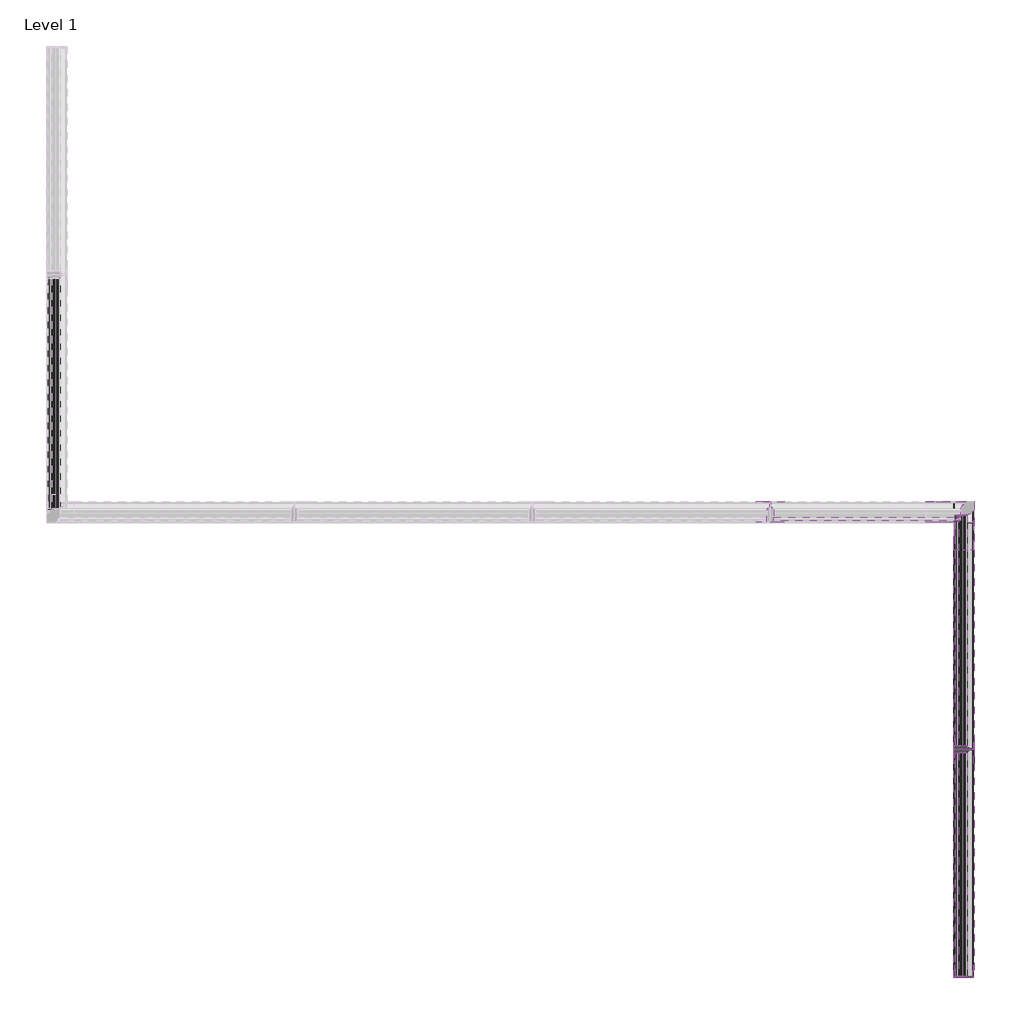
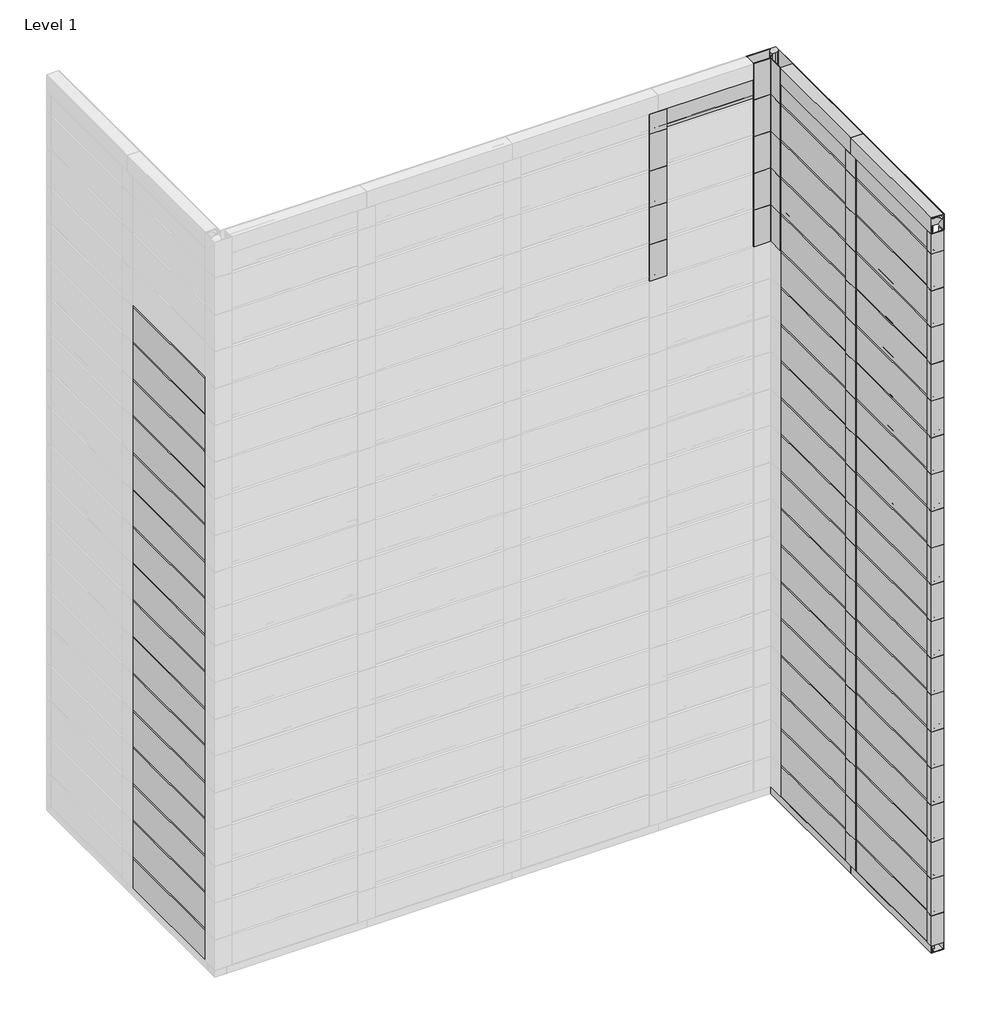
# One storey, part 3 of 6: 74 members, 57 plates.
"""IFC4 building model written with IfcOpenShell, lengths in millimetres."""

from ifc_helpers import new_model, si_unit, origin, place, context, project, spatial, transform, mapped, element, save
from components import rectangular_mullion_fastplank_2_piece_j_trim_top_531f61c0, rectangular_mullion_fastplank_2_piece_j_trim_top_b86e618e, rectangular_mullion_fastplank_2_piece_vertical_trim_b75c35a9, rectangular_mullion_fastplank_2_piece_vertical_trim_79bc82f4, rectangular_mullion_fastplank_2_piece_vertical_trim_40761718, rectangular_mullion_fastplank_general_j_vertical_left_b64c980b, rectangular_mullion_fastplank_general_j_vertical_left_273b95fd, rectangular_mullion_fastplank_general_j_vertical_left_96186454, rectangular_mullion_fastplank_inner_corner_trim_left_b16e904a, rectangular_mullion_fastplank_inner_corner_trim_left_50cadcd8, rectangular_mullion_fastplank_inner_corner_trim_left_bd85acba, rectangular_mullion_fastplank_perforated_starter_j_trim_21be3d7d, rectangular_mullion_fastplank_perforated_starter_j_trim_60d219b5, plate_624bdc6f, plate_11fa783c, plate_9753ce40, plate_9c8115fe, plate_c607dbfb, plate_67973d0f

model = new_model("IFC4")

# Units and contexts
model_context = context("Model", 3, world=origin())
ifc_project = project(units=[si_unit("LENGTHUNIT", "METRE", prefix="MILLI")], contexts=[model_context])

# Site, building, storey
site = spatial("IfcSite", under=ifc_project)
building = spatial("IfcBuilding", under=site)
storey = spatial("IfcBuildingStorey", under=building, Name="Level 1", Elevation=0.0)

# Members
placement = place(None, origin())
rectangular_mullion_fastplank_2_piece_j_trim_top_shape = rectangular_mullion_fastplank_2_piece_j_trim_top_531f61c0(model_context)
element("IfcMember", 1, ObjectType="Rectangular Mullion : FastPlank_2-Piece-J-Trim-Top", at=placement, inside=storey, context=model_context, shape_type="MappedRepresentation", body=[
    mapped(rectangular_mullion_fastplank_2_piece_j_trim_top_shape, transform((-545.8304619, 1194.7788688, 2032.0), x_axis=(0.0, 0.0, 1.0), y_axis=(-1.0, 0.0, 0.0), z_axis=(0.0, -1.0, 0.0))),
])
rectangular_mullion_fastplank_2_piece_j_trim_top_2_shape = rectangular_mullion_fastplank_2_piece_j_trim_top_b86e618e(model_context)
element("IfcMember", 2, ObjectType="Rectangular Mullion : FastPlank_2-Piece-J-Trim-Top", at=placement, inside=storey, context=model_context, shape_type="MappedRepresentation", body=[
    mapped(rectangular_mullion_fastplank_2_piece_j_trim_top_2_shape, transform((-545.8304619, 1559.8945344, 2032.0), x_axis=(0.0, 0.0, 1.0), y_axis=(-1.0, 0.0, 0.0), z_axis=(0.0, -1.0, 0.0))),
])
rectangular_mullion_fastplank_2_piece_vertical_trim_shape = rectangular_mullion_fastplank_2_piece_vertical_trim_b75c35a9(model_context)
element("IfcMember", 3, ObjectType="Rectangular Mullion : FastPlank_2-Piece-Vertical-Trim", at=placement, inside=storey, context=model_context, shape_type="MappedRepresentation", body=[
    mapped(rectangular_mullion_fastplank_2_piece_vertical_trim_shape, transform((-861.085698, 1944.9134647, 1525.3000189), x_axis=(1.0, 0.0, 0.0), y_axis=(0.0, -1.0, 0.0), z_axis=(0.0, 0.0, -1.0))),
])
element("IfcMember", 4, ObjectType="Rectangular Mullion : FastPlank_2-Piece-Vertical-Trim", at=placement, inside=storey, context=model_context, shape_type="MappedRepresentation", body=[
    mapped(rectangular_mullion_fastplank_2_piece_vertical_trim_shape, transform((-861.085698, 1944.9134647, 1626.9000189), x_axis=(1.0, 0.0, 0.0), y_axis=(0.0, -1.0, 0.0), z_axis=(0.0, 0.0, -1.0))),
])
element("IfcMember", 5, ObjectType="Rectangular Mullion : FastPlank_2-Piece-Vertical-Trim", at=placement, inside=storey, context=model_context, shape_type="MappedRepresentation", body=[
    mapped(rectangular_mullion_fastplank_2_piece_vertical_trim_shape, transform((-861.085698, 1944.9134647, 1728.5000189), x_axis=(1.0, 0.0, 0.0), y_axis=(0.0, -1.0, 0.0), z_axis=(0.0, 0.0, -1.0))),
])
element("IfcMember", 6, ObjectType="Rectangular Mullion : FastPlank_2-Piece-Vertical-Trim", at=placement, inside=storey, context=model_context, shape_type="MappedRepresentation", body=[
    mapped(rectangular_mullion_fastplank_2_piece_vertical_trim_shape, transform((-861.085698, 1944.9134647, 1830.1000189), x_axis=(1.0, 0.0, 0.0), y_axis=(0.0, -1.0, 0.0), z_axis=(0.0, 0.0, -1.0))),
])
element("IfcMember", 7, ObjectType="Rectangular Mullion : FastPlank_2-Piece-Vertical-Trim", at=placement, inside=storey, context=model_context, shape_type="MappedRepresentation", body=[
    mapped(rectangular_mullion_fastplank_2_piece_vertical_trim_shape, transform((-545.8304619, 1559.8945344, 102.9000189), x_axis=(0.0, -1.0, 0.0), y_axis=(-1.0, 0.0, 0.0), z_axis=(0.0, 0.0, -1.0))),
])
element("IfcMember", 8, ObjectType="Rectangular Mullion : FastPlank_2-Piece-Vertical-Trim", at=placement, inside=storey, context=model_context, shape_type="MappedRepresentation", body=[
    mapped(rectangular_mullion_fastplank_2_piece_vertical_trim_shape, transform((-545.8304619, 1559.8945344, 204.5000189), x_axis=(0.0, -1.0, 0.0), y_axis=(-1.0, 0.0, 0.0), z_axis=(0.0, 0.0, -1.0))),
])
element("IfcMember", 9, ObjectType="Rectangular Mullion : FastPlank_2-Piece-Vertical-Trim", at=placement, inside=storey, context=model_context, shape_type="MappedRepresentation", body=[
    mapped(rectangular_mullion_fastplank_2_piece_vertical_trim_shape, transform((-545.8304619, 1559.8945344, 306.1000189), x_axis=(0.0, -1.0, 0.0), y_axis=(-1.0, 0.0, 0.0), z_axis=(0.0, 0.0, -1.0))),
])
element("IfcMember", 10, ObjectType="Rectangular Mullion : FastPlank_2-Piece-Vertical-Trim", at=placement, inside=storey, context=model_context, shape_type="MappedRepresentation", body=[
    mapped(rectangular_mullion_fastplank_2_piece_vertical_trim_shape, transform((-545.8304619, 1559.8945344, 407.7000189), x_axis=(0.0, -1.0, 0.0), y_axis=(-1.0, 0.0, 0.0), z_axis=(0.0, 0.0, -1.0))),
])
element("IfcMember", 11, ObjectType="Rectangular Mullion : FastPlank_2-Piece-Vertical-Trim", at=placement, inside=storey, context=model_context, shape_type="MappedRepresentation", body=[
    mapped(rectangular_mullion_fastplank_2_piece_vertical_trim_shape, transform((-545.8304619, 1559.8945344, 509.3000189), x_axis=(0.0, -1.0, 0.0), y_axis=(-1.0, 0.0, 0.0), z_axis=(0.0, 0.0, -1.0))),
])
element("IfcMember", 12, ObjectType="Rectangular Mullion : FastPlank_2-Piece-Vertical-Trim", at=placement, inside=storey, context=model_context, shape_type="MappedRepresentation", body=[
    mapped(rectangular_mullion_fastplank_2_piece_vertical_trim_shape, transform((-545.8304619, 1559.8945344, 610.9000189), x_axis=(0.0, -1.0, 0.0), y_axis=(-1.0, 0.0, 0.0), z_axis=(0.0, 0.0, -1.0))),
])
element("IfcMember", 13, ObjectType="Rectangular Mullion : FastPlank_2-Piece-Vertical-Trim", at=placement, inside=storey, context=model_context, shape_type="MappedRepresentation", body=[
    mapped(rectangular_mullion_fastplank_2_piece_vertical_trim_shape, transform((-545.8304619, 1559.8945344, 712.5000189), x_axis=(0.0, -1.0, 0.0), y_axis=(-1.0, 0.0, 0.0), z_axis=(0.0, 0.0, -1.0))),
])
element("IfcMember", 14, ObjectType="Rectangular Mullion : FastPlank_2-Piece-Vertical-Trim", at=placement, inside=storey, context=model_context, shape_type="MappedRepresentation", body=[
    mapped(rectangular_mullion_fastplank_2_piece_vertical_trim_shape, transform((-545.8304619, 1559.8945344, 814.1000189), x_axis=(0.0, -1.0, 0.0), y_axis=(-1.0, 0.0, 0.0), z_axis=(0.0, 0.0, -1.0))),
])
element("IfcMember", 15, ObjectType="Rectangular Mullion : FastPlank_2-Piece-Vertical-Trim", at=placement, inside=storey, context=model_context, shape_type="MappedRepresentation", body=[
    mapped(rectangular_mullion_fastplank_2_piece_vertical_trim_shape, transform((-545.8304619, 1559.8945344, 915.7000189), x_axis=(0.0, -1.0, 0.0), y_axis=(-1.0, 0.0, 0.0), z_axis=(0.0, 0.0, -1.0))),
])
element("IfcMember", 16, ObjectType="Rectangular Mullion : FastPlank_2-Piece-Vertical-Trim", at=placement, inside=storey, context=model_context, shape_type="MappedRepresentation", body=[
    mapped(rectangular_mullion_fastplank_2_piece_vertical_trim_shape, transform((-545.8304619, 1559.8945344, 1017.3000189), x_axis=(0.0, -1.0, 0.0), y_axis=(-1.0, 0.0, 0.0), z_axis=(0.0, 0.0, -1.0))),
])
element("IfcMember", 17, ObjectType="Rectangular Mullion : FastPlank_2-Piece-Vertical-Trim", at=placement, inside=storey, context=model_context, shape_type="MappedRepresentation", body=[
    mapped(rectangular_mullion_fastplank_2_piece_vertical_trim_shape, transform((-545.8304619, 1559.8945344, 1118.9000189), x_axis=(0.0, -1.0, 0.0), y_axis=(-1.0, 0.0, 0.0), z_axis=(0.0, 0.0, -1.0))),
])
element("IfcMember", 18, ObjectType="Rectangular Mullion : FastPlank_2-Piece-Vertical-Trim", at=placement, inside=storey, context=model_context, shape_type="MappedRepresentation", body=[
    mapped(rectangular_mullion_fastplank_2_piece_vertical_trim_shape, transform((-545.8304619, 1559.8945344, 1220.5000189), x_axis=(0.0, -1.0, 0.0), y_axis=(-1.0, 0.0, 0.0), z_axis=(0.0, 0.0, -1.0))),
])
element("IfcMember", 19, ObjectType="Rectangular Mullion : FastPlank_2-Piece-Vertical-Trim", at=placement, inside=storey, context=model_context, shape_type="MappedRepresentation", body=[
    mapped(rectangular_mullion_fastplank_2_piece_vertical_trim_shape, transform((-545.8304619, 1559.8945344, 1322.1000189), x_axis=(0.0, -1.0, 0.0), y_axis=(-1.0, 0.0, 0.0), z_axis=(0.0, 0.0, -1.0))),
])
element("IfcMember", 20, ObjectType="Rectangular Mullion : FastPlank_2-Piece-Vertical-Trim", at=placement, inside=storey, context=model_context, shape_type="MappedRepresentation", body=[
    mapped(rectangular_mullion_fastplank_2_piece_vertical_trim_shape, transform((-545.8304619, 1559.8945344, 1423.7000189), x_axis=(0.0, -1.0, 0.0), y_axis=(-1.0, 0.0, 0.0), z_axis=(0.0, 0.0, -1.0))),
])
element("IfcMember", 21, ObjectType="Rectangular Mullion : FastPlank_2-Piece-Vertical-Trim", at=placement, inside=storey, context=model_context, shape_type="MappedRepresentation", body=[
    mapped(rectangular_mullion_fastplank_2_piece_vertical_trim_shape, transform((-545.8304619, 1559.8945344, 1525.3000189), x_axis=(0.0, -1.0, 0.0), y_axis=(-1.0, 0.0, 0.0), z_axis=(0.0, 0.0, -1.0))),
])
element("IfcMember", 22, ObjectType="Rectangular Mullion : FastPlank_2-Piece-Vertical-Trim", at=placement, inside=storey, context=model_context, shape_type="MappedRepresentation", body=[
    mapped(rectangular_mullion_fastplank_2_piece_vertical_trim_shape, transform((-545.8304619, 1559.8945344, 1626.9000189), x_axis=(0.0, -1.0, 0.0), y_axis=(-1.0, 0.0, 0.0), z_axis=(0.0, 0.0, -1.0))),
])
element("IfcMember", 23, ObjectType="Rectangular Mullion : FastPlank_2-Piece-Vertical-Trim", at=placement, inside=storey, context=model_context, shape_type="MappedRepresentation", body=[
    mapped(rectangular_mullion_fastplank_2_piece_vertical_trim_shape, transform((-545.8304619, 1559.8945344, 1728.5000189), x_axis=(0.0, -1.0, 0.0), y_axis=(-1.0, 0.0, 0.0), z_axis=(0.0, 0.0, -1.0))),
])
element("IfcMember", 24, ObjectType="Rectangular Mullion : FastPlank_2-Piece-Vertical-Trim", at=placement, inside=storey, context=model_context, shape_type="MappedRepresentation", body=[
    mapped(rectangular_mullion_fastplank_2_piece_vertical_trim_shape, transform((-545.8304619, 1559.8945344, 1830.1000189), x_axis=(0.0, -1.0, 0.0), y_axis=(-1.0, 0.0, 0.0), z_axis=(0.0, 0.0, -1.0))),
])
rectangular_mullion_fastplank_2_piece_vertical_trim_2_shape = rectangular_mullion_fastplank_2_piece_vertical_trim_79bc82f4(model_context)
element("IfcMember", 25, ObjectType="Rectangular Mullion : FastPlank_2-Piece-Vertical-Trim", at=placement, inside=storey, context=model_context, shape_type="MappedRepresentation", body=[
    mapped(rectangular_mullion_fastplank_2_piece_vertical_trim_2_shape, transform((-861.085698, 1944.9134647, 1931.7000189), x_axis=(1.0, 0.0, 0.0), y_axis=(0.0, -1.0, 0.0), z_axis=(0.0, 0.0, -1.0))),
])
element("IfcMember", 26, ObjectType="Rectangular Mullion : FastPlank_2-Piece-Vertical-Trim", at=placement, inside=storey, context=model_context, shape_type="MappedRepresentation", body=[
    mapped(rectangular_mullion_fastplank_2_piece_vertical_trim_2_shape, transform((-545.8304619, 1559.8945344, 1931.7000189), x_axis=(0.0, -1.0, 0.0), y_axis=(-1.0, 0.0, 0.0), z_axis=(0.0, 0.0, -1.0))),
])
rectangular_mullion_fastplank_2_piece_vertical_trim_3_shape = rectangular_mullion_fastplank_2_piece_vertical_trim_40761718(model_context)
element("IfcMember", 27, ObjectType="Rectangular Mullion : FastPlank_2-Piece-Vertical-Trim", at=placement, inside=storey, context=model_context, shape_type="MappedRepresentation", body=[
    mapped(rectangular_mullion_fastplank_2_piece_vertical_trim_3_shape, transform((-545.8304619, 1559.8945344, 19.05), x_axis=(0.0, -1.0, 0.0), y_axis=(-1.0, 0.0, 0.0), z_axis=(0.0, 0.0, -1.0))),
])
rectangular_mullion_fastplank_general_j_vertical_left_shape = rectangular_mullion_fastplank_general_j_vertical_left_b64c980b(model_context)
element("IfcMember", 28, ObjectType="Rectangular Mullion : FastPlank_General-J-Vertical-Left", at=placement, inside=storey, context=model_context, shape_type="MappedRepresentation", body=[
    mapped(rectangular_mullion_fastplank_general_j_vertical_left_shape, transform((-545.8304619, 1194.7788688, 102.9000189), x_axis=(0.0, -1.0, 0.0), y_axis=(-1.0, 0.0, 0.0), z_axis=(0.0, 0.0, -1.0))),
])
element("IfcMember", 29, ObjectType="Rectangular Mullion : FastPlank_General-J-Vertical-Left", at=placement, inside=storey, context=model_context, shape_type="MappedRepresentation", body=[
    mapped(rectangular_mullion_fastplank_general_j_vertical_left_shape, transform((-545.8304619, 1194.7788688, 204.5000189), x_axis=(0.0, -1.0, 0.0), y_axis=(-1.0, 0.0, 0.0), z_axis=(0.0, 0.0, -1.0))),
])
element("IfcMember", 30, ObjectType="Rectangular Mullion : FastPlank_General-J-Vertical-Left", at=placement, inside=storey, context=model_context, shape_type="MappedRepresentation", body=[
    mapped(rectangular_mullion_fastplank_general_j_vertical_left_shape, transform((-545.8304619, 1194.7788688, 306.1000189), x_axis=(0.0, -1.0, 0.0), y_axis=(-1.0, 0.0, 0.0), z_axis=(0.0, 0.0, -1.0))),
])
element("IfcMember", 31, ObjectType="Rectangular Mullion : FastPlank_General-J-Vertical-Left", at=placement, inside=storey, context=model_context, shape_type="MappedRepresentation", body=[
    mapped(rectangular_mullion_fastplank_general_j_vertical_left_shape, transform((-545.8304619, 1194.7788688, 407.7000189), x_axis=(0.0, -1.0, 0.0), y_axis=(-1.0, 0.0, 0.0), z_axis=(0.0, 0.0, -1.0))),
])
element("IfcMember", 32, ObjectType="Rectangular Mullion : FastPlank_General-J-Vertical-Left", at=placement, inside=storey, context=model_context, shape_type="MappedRepresentation", body=[
    mapped(rectangular_mullion_fastplank_general_j_vertical_left_shape, transform((-545.8304619, 1194.7788688, 509.3000189), x_axis=(0.0, -1.0, 0.0), y_axis=(-1.0, 0.0, 0.0), z_axis=(0.0, 0.0, -1.0))),
])
element("IfcMember", 33, ObjectType="Rectangular Mullion : FastPlank_General-J-Vertical-Left", at=placement, inside=storey, context=model_context, shape_type="MappedRepresentation", body=[
    mapped(rectangular_mullion_fastplank_general_j_vertical_left_shape, transform((-545.8304619, 1194.7788688, 610.9000189), x_axis=(0.0, -1.0, 0.0), y_axis=(-1.0, 0.0, 0.0), z_axis=(0.0, 0.0, -1.0))),
])
element("IfcMember", 34, ObjectType="Rectangular Mullion : FastPlank_General-J-Vertical-Left", at=placement, inside=storey, context=model_context, shape_type="MappedRepresentation", body=[
    mapped(rectangular_mullion_fastplank_general_j_vertical_left_shape, transform((-545.8304619, 1194.7788688, 712.5000189), x_axis=(0.0, -1.0, 0.0), y_axis=(-1.0, 0.0, 0.0), z_axis=(0.0, 0.0, -1.0))),
])
element("IfcMember", 35, ObjectType="Rectangular Mullion : FastPlank_General-J-Vertical-Left", at=placement, inside=storey, context=model_context, shape_type="MappedRepresentation", body=[
    mapped(rectangular_mullion_fastplank_general_j_vertical_left_shape, transform((-545.8304619, 1194.7788688, 814.1000189), x_axis=(0.0, -1.0, 0.0), y_axis=(-1.0, 0.0, 0.0), z_axis=(0.0, 0.0, -1.0))),
])
element("IfcMember", 36, ObjectType="Rectangular Mullion : FastPlank_General-J-Vertical-Left", at=placement, inside=storey, context=model_context, shape_type="MappedRepresentation", body=[
    mapped(rectangular_mullion_fastplank_general_j_vertical_left_shape, transform((-545.8304619, 1194.7788688, 915.7000189), x_axis=(0.0, -1.0, 0.0), y_axis=(-1.0, 0.0, 0.0), z_axis=(0.0, 0.0, -1.0))),
])
element("IfcMember", 37, ObjectType="Rectangular Mullion : FastPlank_General-J-Vertical-Left", at=placement, inside=storey, context=model_context, shape_type="MappedRepresentation", body=[
    mapped(rectangular_mullion_fastplank_general_j_vertical_left_shape, transform((-545.8304619, 1194.7788688, 1017.3000189), x_axis=(0.0, -1.0, 0.0), y_axis=(-1.0, 0.0, 0.0), z_axis=(0.0, 0.0, -1.0))),
])
element("IfcMember", 38, ObjectType="Rectangular Mullion : FastPlank_General-J-Vertical-Left", at=placement, inside=storey, context=model_context, shape_type="MappedRepresentation", body=[
    mapped(rectangular_mullion_fastplank_general_j_vertical_left_shape, transform((-545.8304619, 1194.7788688, 1118.9000189), x_axis=(0.0, -1.0, 0.0), y_axis=(-1.0, 0.0, 0.0), z_axis=(0.0, 0.0, -1.0))),
])
element("IfcMember", 39, ObjectType="Rectangular Mullion : FastPlank_General-J-Vertical-Left", at=placement, inside=storey, context=model_context, shape_type="MappedRepresentation", body=[
    mapped(rectangular_mullion_fastplank_general_j_vertical_left_shape, transform((-545.8304619, 1194.7788688, 1220.5000189), x_axis=(0.0, -1.0, 0.0), y_axis=(-1.0, 0.0, 0.0), z_axis=(0.0, 0.0, -1.0))),
])
element("IfcMember", 40, ObjectType="Rectangular Mullion : FastPlank_General-J-Vertical-Left", at=placement, inside=storey, context=model_context, shape_type="MappedRepresentation", body=[
    mapped(rectangular_mullion_fastplank_general_j_vertical_left_shape, transform((-545.8304619, 1194.7788688, 1322.1000189), x_axis=(0.0, -1.0, 0.0), y_axis=(-1.0, 0.0, 0.0), z_axis=(0.0, 0.0, -1.0))),
])
element("IfcMember", 41, ObjectType="Rectangular Mullion : FastPlank_General-J-Vertical-Left", at=placement, inside=storey, context=model_context, shape_type="MappedRepresentation", body=[
    mapped(rectangular_mullion_fastplank_general_j_vertical_left_shape, transform((-545.8304619, 1194.7788688, 1423.7000189), x_axis=(0.0, -1.0, 0.0), y_axis=(-1.0, 0.0, 0.0), z_axis=(0.0, 0.0, -1.0))),
])
element("IfcMember", 42, ObjectType="Rectangular Mullion : FastPlank_General-J-Vertical-Left", at=placement, inside=storey, context=model_context, shape_type="MappedRepresentation", body=[
    mapped(rectangular_mullion_fastplank_general_j_vertical_left_shape, transform((-545.8304619, 1194.7788688, 1525.3000189), x_axis=(0.0, -1.0, 0.0), y_axis=(-1.0, 0.0, 0.0), z_axis=(0.0, 0.0, -1.0))),
])
element("IfcMember", 43, ObjectType="Rectangular Mullion : FastPlank_General-J-Vertical-Left", at=placement, inside=storey, context=model_context, shape_type="MappedRepresentation", body=[
    mapped(rectangular_mullion_fastplank_general_j_vertical_left_shape, transform((-545.8304619, 1194.7788688, 1626.9000189), x_axis=(0.0, -1.0, 0.0), y_axis=(-1.0, 0.0, 0.0), z_axis=(0.0, 0.0, -1.0))),
])
element("IfcMember", 44, ObjectType="Rectangular Mullion : FastPlank_General-J-Vertical-Left", at=placement, inside=storey, context=model_context, shape_type="MappedRepresentation", body=[
    mapped(rectangular_mullion_fastplank_general_j_vertical_left_shape, transform((-545.8304619, 1194.7788688, 1728.5000189), x_axis=(0.0, -1.0, 0.0), y_axis=(-1.0, 0.0, 0.0), z_axis=(0.0, 0.0, -1.0))),
])
element("IfcMember", 45, ObjectType="Rectangular Mullion : FastPlank_General-J-Vertical-Left", at=placement, inside=storey, context=model_context, shape_type="MappedRepresentation", body=[
    mapped(rectangular_mullion_fastplank_general_j_vertical_left_shape, transform((-545.8304619, 1194.7788688, 1830.1000189), x_axis=(0.0, -1.0, 0.0), y_axis=(-1.0, 0.0, 0.0), z_axis=(0.0, 0.0, -1.0))),
])
rectangular_mullion_fastplank_general_j_vertical_left_2_shape = rectangular_mullion_fastplank_general_j_vertical_left_273b95fd(model_context)
element("IfcMember", 46, ObjectType="Rectangular Mullion : FastPlank_General-J-Vertical-Left", at=placement, inside=storey, context=model_context, shape_type="MappedRepresentation", body=[
    mapped(rectangular_mullion_fastplank_general_j_vertical_left_2_shape, transform((-545.8304619, 1194.7788688, 1931.7000189), x_axis=(0.0, -1.0, 0.0), y_axis=(-1.0, 0.0, 0.0), z_axis=(0.0, 0.0, -1.0))),
])
rectangular_mullion_fastplank_general_j_vertical_left_3_shape = rectangular_mullion_fastplank_general_j_vertical_left_96186454(model_context)
element("IfcMember", 47, ObjectType="Rectangular Mullion : FastPlank_General-J-Vertical-Left", at=placement, inside=storey, context=model_context, shape_type="MappedRepresentation", body=[
    mapped(rectangular_mullion_fastplank_general_j_vertical_left_3_shape, transform((-545.8304619, 1194.7788688, 19.05), x_axis=(0.0, -1.0, 0.0), y_axis=(-1.0, 0.0, 0.0), z_axis=(0.0, 0.0, -1.0))),
])
rectangular_mullion_fastplank_inner_corner_trim_left_shape = rectangular_mullion_fastplank_inner_corner_trim_left_b16e904a(model_context)
element("IfcMember", 48, ObjectType="Rectangular Mullion : FastPlank_Inner-Corner-Trim-Left", at=placement, inside=storey, context=model_context, shape_type="MappedRepresentation", body=[
    mapped(rectangular_mullion_fastplank_inner_corner_trim_left_shape, transform((-545.8304619, 1956.7788688, 204.5000189), x_axis=(0.0, 1.0, 0.0), y_axis=(-1.0, 0.0, 0.0), z_axis=(0.0, 0.0, 1.0))),
])
element("IfcMember", 49, ObjectType="Rectangular Mullion : FastPlank_Inner-Corner-Trim-Left", at=placement, inside=storey, context=model_context, shape_type="MappedRepresentation", body=[
    mapped(rectangular_mullion_fastplank_inner_corner_trim_left_shape, transform((-545.8304619, 1956.7788688, 306.1000189), x_axis=(0.0, 1.0, 0.0), y_axis=(-1.0, 0.0, 0.0), z_axis=(0.0, 0.0, 1.0))),
])
element("IfcMember", 50, ObjectType="Rectangular Mullion : FastPlank_Inner-Corner-Trim-Left", at=placement, inside=storey, context=model_context, shape_type="MappedRepresentation", body=[
    mapped(rectangular_mullion_fastplank_inner_corner_trim_left_shape, transform((-545.8304619, 1956.7788688, 407.7000189), x_axis=(0.0, 1.0, 0.0), y_axis=(-1.0, 0.0, 0.0), z_axis=(0.0, 0.0, 1.0))),
])
element("IfcMember", 51, ObjectType="Rectangular Mullion : FastPlank_Inner-Corner-Trim-Left", at=placement, inside=storey, context=model_context, shape_type="MappedRepresentation", body=[
    mapped(rectangular_mullion_fastplank_inner_corner_trim_left_shape, transform((-545.8304619, 1956.7788688, 509.3000189), x_axis=(0.0, 1.0, 0.0), y_axis=(-1.0, 0.0, 0.0), z_axis=(0.0, 0.0, 1.0))),
])
element("IfcMember", 52, ObjectType="Rectangular Mullion : FastPlank_Inner-Corner-Trim-Left", at=placement, inside=storey, context=model_context, shape_type="MappedRepresentation", body=[
    mapped(rectangular_mullion_fastplank_inner_corner_trim_left_shape, transform((-545.8304619, 1956.7788688, 610.9000189), x_axis=(0.0, 1.0, 0.0), y_axis=(-1.0, 0.0, 0.0), z_axis=(0.0, 0.0, 1.0))),
])
element("IfcMember", 53, ObjectType="Rectangular Mullion : FastPlank_Inner-Corner-Trim-Left", at=placement, inside=storey, context=model_context, shape_type="MappedRepresentation", body=[
    mapped(rectangular_mullion_fastplank_inner_corner_trim_left_shape, transform((-545.8304619, 1956.7788688, 712.5000189), x_axis=(0.0, 1.0, 0.0), y_axis=(-1.0, 0.0, 0.0), z_axis=(0.0, 0.0, 1.0))),
])
element("IfcMember", 54, ObjectType="Rectangular Mullion : FastPlank_Inner-Corner-Trim-Left", at=placement, inside=storey, context=model_context, shape_type="MappedRepresentation", body=[
    mapped(rectangular_mullion_fastplank_inner_corner_trim_left_shape, transform((-545.8304619, 1956.7788688, 814.1000189), x_axis=(0.0, 1.0, 0.0), y_axis=(-1.0, 0.0, 0.0), z_axis=(0.0, 0.0, 1.0))),
])
element("IfcMember", 55, ObjectType="Rectangular Mullion : FastPlank_Inner-Corner-Trim-Left", at=placement, inside=storey, context=model_context, shape_type="MappedRepresentation", body=[
    mapped(rectangular_mullion_fastplank_inner_corner_trim_left_shape, transform((-545.8304619, 1956.7788688, 915.7000189), x_axis=(0.0, 1.0, 0.0), y_axis=(-1.0, 0.0, 0.0), z_axis=(0.0, 0.0, 1.0))),
])
element("IfcMember", 56, ObjectType="Rectangular Mullion : FastPlank_Inner-Corner-Trim-Left", at=placement, inside=storey, context=model_context, shape_type="MappedRepresentation", body=[
    mapped(rectangular_mullion_fastplank_inner_corner_trim_left_shape, transform((-545.8304619, 1956.7788688, 1017.3000189), x_axis=(0.0, 1.0, 0.0), y_axis=(-1.0, 0.0, 0.0), z_axis=(0.0, 0.0, 1.0))),
])
element("IfcMember", 57, ObjectType="Rectangular Mullion : FastPlank_Inner-Corner-Trim-Left", at=placement, inside=storey, context=model_context, shape_type="MappedRepresentation", body=[
    mapped(rectangular_mullion_fastplank_inner_corner_trim_left_shape, transform((-545.8304619, 1956.7788688, 1118.9000189), x_axis=(0.0, 1.0, 0.0), y_axis=(-1.0, 0.0, 0.0), z_axis=(0.0, 0.0, 1.0))),
])
element("IfcMember", 58, ObjectType="Rectangular Mullion : FastPlank_Inner-Corner-Trim-Left", at=placement, inside=storey, context=model_context, shape_type="MappedRepresentation", body=[
    mapped(rectangular_mullion_fastplank_inner_corner_trim_left_shape, transform((-545.8304619, 1956.7788688, 1220.5000189), x_axis=(0.0, 1.0, 0.0), y_axis=(-1.0, 0.0, 0.0), z_axis=(0.0, 0.0, 1.0))),
])
element("IfcMember", 59, ObjectType="Rectangular Mullion : FastPlank_Inner-Corner-Trim-Left", at=placement, inside=storey, context=model_context, shape_type="MappedRepresentation", body=[
    mapped(rectangular_mullion_fastplank_inner_corner_trim_left_shape, transform((-545.8304619, 1956.7788688, 1322.1000189), x_axis=(0.0, 1.0, 0.0), y_axis=(-1.0, 0.0, 0.0), z_axis=(0.0, 0.0, 1.0))),
])
element("IfcMember", 60, ObjectType="Rectangular Mullion : FastPlank_Inner-Corner-Trim-Left", at=placement, inside=storey, context=model_context, shape_type="MappedRepresentation", body=[
    mapped(rectangular_mullion_fastplank_inner_corner_trim_left_shape, transform((-545.8304619, 1956.7788688, 1423.7000189), x_axis=(0.0, 1.0, 0.0), y_axis=(-1.0, 0.0, 0.0), z_axis=(0.0, 0.0, 1.0))),
])
element("IfcMember", 61, ObjectType="Rectangular Mullion : FastPlank_Inner-Corner-Trim-Left", at=placement, inside=storey, context=model_context, shape_type="MappedRepresentation", body=[
    mapped(rectangular_mullion_fastplank_inner_corner_trim_left_shape, transform((-545.8304619, 1956.7788688, 1525.3000189), x_axis=(0.0, 1.0, 0.0), y_axis=(-1.0, 0.0, 0.0), z_axis=(0.0, 0.0, 1.0))),
])
element("IfcMember", 62, ObjectType="Rectangular Mullion : FastPlank_Inner-Corner-Trim-Left", at=placement, inside=storey, context=model_context, shape_type="MappedRepresentation", body=[
    mapped(rectangular_mullion_fastplank_inner_corner_trim_left_shape, transform((-545.8304619, 1956.7788688, 1626.9000189), x_axis=(0.0, 1.0, 0.0), y_axis=(-1.0, 0.0, 0.0), z_axis=(0.0, 0.0, 1.0))),
])
element("IfcMember", 63, ObjectType="Rectangular Mullion : FastPlank_Inner-Corner-Trim-Left", at=placement, inside=storey, context=model_context, shape_type="MappedRepresentation", body=[
    mapped(rectangular_mullion_fastplank_inner_corner_trim_left_shape, transform((-545.8304619, 1956.7788688, 1728.5000189), x_axis=(0.0, 1.0, 0.0), y_axis=(-1.0, 0.0, 0.0), z_axis=(0.0, 0.0, 1.0))),
])
element("IfcMember", 64, ObjectType="Rectangular Mullion : FastPlank_Inner-Corner-Trim-Left", at=placement, inside=storey, context=model_context, shape_type="MappedRepresentation", body=[
    mapped(rectangular_mullion_fastplank_inner_corner_trim_left_shape, transform((-545.8304619, 1956.7788688, 1830.1000189), x_axis=(0.0, 1.0, 0.0), y_axis=(-1.0, 0.0, 0.0), z_axis=(0.0, 0.0, 1.0))),
])
element("IfcMember", 65, ObjectType="Rectangular Mullion : FastPlank_Inner-Corner-Trim-Left", at=placement, inside=storey, context=model_context, shape_type="MappedRepresentation", body=[
    mapped(rectangular_mullion_fastplank_inner_corner_trim_left_shape, transform((-545.8304619, 1956.7788688, 1931.7000189), x_axis=(0.0, 1.0, 0.0), y_axis=(-1.0, 0.0, 0.0), z_axis=(0.0, 0.0, 1.0))),
])
rectangular_mullion_fastplank_inner_corner_trim_left_2_shape = rectangular_mullion_fastplank_inner_corner_trim_left_50cadcd8(model_context)
element("IfcMember", 66, ObjectType="Rectangular Mullion : FastPlank_Inner-Corner-Trim-Left", at=placement, inside=storey, context=model_context, shape_type="MappedRepresentation", body=[
    mapped(rectangular_mullion_fastplank_inner_corner_trim_left_2_shape, transform((-545.8304619, 1956.7788688, 2032.0), x_axis=(0.0, 1.0, 0.0), y_axis=(-1.0, 0.0, 0.0), z_axis=(0.0, 0.0, 1.0))),
])
rectangular_mullion_fastplank_inner_corner_trim_left_3_shape = rectangular_mullion_fastplank_inner_corner_trim_left_bd85acba(model_context)
element("IfcMember", 67, ObjectType="Rectangular Mullion : FastPlank_Inner-Corner-Trim-Left", at=placement, inside=storey, context=model_context, shape_type="MappedRepresentation", body=[
    mapped(rectangular_mullion_fastplank_inner_corner_trim_left_3_shape, transform((-545.8304619, 1956.7788688, 102.9000189), x_axis=(0.0, 1.0, 0.0), y_axis=(-1.0, 0.0, 0.0), z_axis=(0.0, 0.0, 1.0))),
])
element("IfcMember", 68, ObjectType="Rectangular Mullion : FastPlank_Inner-Corner-Trim-Right", at=placement, inside=storey, context=model_context, shape_type="MappedRepresentation", body=[
    mapped(rectangular_mullion_fastplank_inner_corner_trim_left_shape, transform((-533.9650578, 1944.9134647, 1525.3000189), x_axis=(1.0, 0.0, 0.0), y_axis=(0.0, -1.0, 0.0), z_axis=(0.0, 0.0, -1.0))),
])
element("IfcMember", 69, ObjectType="Rectangular Mullion : FastPlank_Inner-Corner-Trim-Right", at=placement, inside=storey, context=model_context, shape_type="MappedRepresentation", body=[
    mapped(rectangular_mullion_fastplank_inner_corner_trim_left_shape, transform((-533.9650578, 1944.9134647, 1626.9000189), x_axis=(1.0, 0.0, 0.0), y_axis=(0.0, -1.0, 0.0), z_axis=(0.0, 0.0, -1.0))),
])
element("IfcMember", 70, ObjectType="Rectangular Mullion : FastPlank_Inner-Corner-Trim-Right", at=placement, inside=storey, context=model_context, shape_type="MappedRepresentation", body=[
    mapped(rectangular_mullion_fastplank_inner_corner_trim_left_shape, transform((-533.9650578, 1944.9134647, 1728.5000189), x_axis=(1.0, 0.0, 0.0), y_axis=(0.0, -1.0, 0.0), z_axis=(0.0, 0.0, -1.0))),
])
element("IfcMember", 71, ObjectType="Rectangular Mullion : FastPlank_Inner-Corner-Trim-Right", at=placement, inside=storey, context=model_context, shape_type="MappedRepresentation", body=[
    mapped(rectangular_mullion_fastplank_inner_corner_trim_left_shape, transform((-533.9650578, 1944.9134647, 1830.1000189), x_axis=(1.0, 0.0, 0.0), y_axis=(0.0, -1.0, 0.0), z_axis=(0.0, 0.0, -1.0))),
])
element("IfcMember", 72, ObjectType="Rectangular Mullion : FastPlank_Inner-Corner-Trim-Right", at=placement, inside=storey, context=model_context, shape_type="MappedRepresentation", body=[
    mapped(rectangular_mullion_fastplank_inner_corner_trim_left_2_shape, transform((-533.9650578, 1944.9134647, 1931.7000189), x_axis=(1.0, 0.0, 0.0), y_axis=(0.0, -1.0, 0.0), z_axis=(0.0, 0.0, -1.0))),
])
rectangular_mullion_fastplank_perforated_starter_j_trim_shape = rectangular_mullion_fastplank_perforated_starter_j_trim_21be3d7d(model_context)
element("IfcMember", 73, ObjectType="Rectangular Mullion : FastPlank_Perforated-Starter-J-Trim", at=placement, inside=storey, context=model_context, shape_type="MappedRepresentation", body=[
    mapped(rectangular_mullion_fastplank_perforated_starter_j_trim_shape, transform((-545.8304619, 1956.7788688, 0.0), x_axis=(0.0, 0.0, -1.0), y_axis=(-1.0, 0.0, 0.0), z_axis=(0.0, 1.0, 0.0))),
])
rectangular_mullion_fastplank_perforated_starter_j_trim_2_shape = rectangular_mullion_fastplank_perforated_starter_j_trim_60d219b5(model_context)
element("IfcMember", 74, ObjectType="Rectangular Mullion : FastPlank_Perforated-Starter-J-Trim", at=placement, inside=storey, context=model_context, shape_type="MappedRepresentation", body=[
    mapped(rectangular_mullion_fastplank_perforated_starter_j_trim_2_shape, transform((-545.8304619, 1559.8945344, 0.0), x_axis=(0.0, 0.0, -1.0), y_axis=(-1.0, 0.0, 0.0), z_axis=(0.0, 1.0, 0.0))),
])

# Plates
plate_shape = plate_624bdc6f(model_context)
element("IfcPlate", 75, ObjectType="FastPlank_P44V-V-Notch-4″-Plank-Horizontal : P44V-V-Notch-4″-Plank-Horizontal", at=placement, inside=storey, context=model_context, shape_type="MappedRepresentation", body=[
    mapped(plate_shape, transform((-545.8304619, 1750.3945345, 1.3000189), x_axis=(0.0, -1.0, 0.0), y_axis=(1.0, 0.0, 0.0), z_axis=(0.0, 0.0, 1.0))),
])
element("IfcPlate", 76, ObjectType="FastPlank_P44V-V-Notch-4″-Plank-Horizontal : P44V-V-Notch-4″-Plank-Horizontal", at=placement, inside=storey, context=model_context, shape_type="MappedRepresentation", body=[
    mapped(plate_shape, transform((-545.8304619, 1750.3945345, 102.9000189), x_axis=(0.0, -1.0, 0.0), y_axis=(1.0, 0.0, 0.0), z_axis=(0.0, 0.0, 1.0))),
])
element("IfcPlate", 77, ObjectType="FastPlank_P44V-V-Notch-4″-Plank-Horizontal : P44V-V-Notch-4″-Plank-Horizontal", at=placement, inside=storey, context=model_context, shape_type="MappedRepresentation", body=[
    mapped(plate_shape, transform((-545.8304619, 1750.3945345, 204.5000189), x_axis=(0.0, -1.0, 0.0), y_axis=(1.0, 0.0, 0.0), z_axis=(0.0, 0.0, 1.0))),
])
element("IfcPlate", 78, ObjectType="FastPlank_P44V-V-Notch-4″-Plank-Horizontal : P44V-V-Notch-4″-Plank-Horizontal", at=placement, inside=storey, context=model_context, shape_type="MappedRepresentation", body=[
    mapped(plate_shape, transform((-545.8304619, 1750.3945345, 306.1000189), x_axis=(0.0, -1.0, 0.0), y_axis=(1.0, 0.0, 0.0), z_axis=(0.0, 0.0, 1.0))),
])
element("IfcPlate", 79, ObjectType="FastPlank_P44V-V-Notch-4″-Plank-Horizontal : P44V-V-Notch-4″-Plank-Horizontal", at=placement, inside=storey, context=model_context, shape_type="MappedRepresentation", body=[
    mapped(plate_shape, transform((-545.8304619, 1750.3945345, 407.7000189), x_axis=(0.0, -1.0, 0.0), y_axis=(1.0, 0.0, 0.0), z_axis=(0.0, 0.0, 1.0))),
])
element("IfcPlate", 80, ObjectType="FastPlank_P44V-V-Notch-4″-Plank-Horizontal : P44V-V-Notch-4″-Plank-Horizontal", at=placement, inside=storey, context=model_context, shape_type="MappedRepresentation", body=[
    mapped(plate_shape, transform((-545.8304619, 1750.3945345, 509.3000189), x_axis=(0.0, -1.0, 0.0), y_axis=(1.0, 0.0, 0.0), z_axis=(0.0, 0.0, 1.0))),
])
element("IfcPlate", 81, ObjectType="FastPlank_P44V-V-Notch-4″-Plank-Horizontal : P44V-V-Notch-4″-Plank-Horizontal", at=placement, inside=storey, context=model_context, shape_type="MappedRepresentation", body=[
    mapped(plate_shape, transform((-545.8304619, 1750.3945345, 610.9000189), x_axis=(0.0, -1.0, 0.0), y_axis=(1.0, 0.0, 0.0), z_axis=(0.0, 0.0, 1.0))),
])
element("IfcPlate", 82, ObjectType="FastPlank_P44V-V-Notch-4″-Plank-Horizontal : P44V-V-Notch-4″-Plank-Horizontal", at=placement, inside=storey, context=model_context, shape_type="MappedRepresentation", body=[
    mapped(plate_shape, transform((-545.8304619, 1750.3945345, 712.5000189), x_axis=(0.0, -1.0, 0.0), y_axis=(1.0, 0.0, 0.0), z_axis=(0.0, 0.0, 1.0))),
])
element("IfcPlate", 83, ObjectType="FastPlank_P44V-V-Notch-4″-Plank-Horizontal : P44V-V-Notch-4″-Plank-Horizontal", at=placement, inside=storey, context=model_context, shape_type="MappedRepresentation", body=[
    mapped(plate_shape, transform((-545.8304619, 1750.3945345, 814.1000189), x_axis=(0.0, -1.0, 0.0), y_axis=(1.0, 0.0, 0.0), z_axis=(0.0, 0.0, 1.0))),
])
element("IfcPlate", 84, ObjectType="FastPlank_P44V-V-Notch-4″-Plank-Horizontal : P44V-V-Notch-4″-Plank-Horizontal", at=placement, inside=storey, context=model_context, shape_type="MappedRepresentation", body=[
    mapped(plate_shape, transform((-545.8304619, 1750.3945345, 915.7000189), x_axis=(0.0, -1.0, 0.0), y_axis=(1.0, 0.0, 0.0), z_axis=(0.0, 0.0, 1.0))),
])
element("IfcPlate", 85, ObjectType="FastPlank_P44V-V-Notch-4″-Plank-Horizontal : P44V-V-Notch-4″-Plank-Horizontal", at=placement, inside=storey, context=model_context, shape_type="MappedRepresentation", body=[
    mapped(plate_shape, transform((-545.8304619, 1750.3945345, 1017.3000189), x_axis=(0.0, -1.0, 0.0), y_axis=(1.0, 0.0, 0.0), z_axis=(0.0, 0.0, 1.0))),
])
element("IfcPlate", 86, ObjectType="FastPlank_P44V-V-Notch-4″-Plank-Horizontal : P44V-V-Notch-4″-Plank-Horizontal", at=placement, inside=storey, context=model_context, shape_type="MappedRepresentation", body=[
    mapped(plate_shape, transform((-545.8304619, 1750.3945345, 1118.9000189), x_axis=(0.0, -1.0, 0.0), y_axis=(1.0, 0.0, 0.0), z_axis=(0.0, 0.0, 1.0))),
])
element("IfcPlate", 87, ObjectType="FastPlank_P44V-V-Notch-4″-Plank-Horizontal : P44V-V-Notch-4″-Plank-Horizontal", at=placement, inside=storey, context=model_context, shape_type="MappedRepresentation", body=[
    mapped(plate_shape, transform((-545.8304619, 1750.3945345, 1220.5000189), x_axis=(0.0, -1.0, 0.0), y_axis=(1.0, 0.0, 0.0), z_axis=(0.0, 0.0, 1.0))),
])
element("IfcPlate", 88, ObjectType="FastPlank_P44V-V-Notch-4″-Plank-Horizontal : P44V-V-Notch-4″-Plank-Horizontal", at=placement, inside=storey, context=model_context, shape_type="MappedRepresentation", body=[
    mapped(plate_shape, transform((-545.8304619, 1750.3945345, 1322.1000189), x_axis=(0.0, -1.0, 0.0), y_axis=(1.0, 0.0, 0.0), z_axis=(0.0, 0.0, 1.0))),
])
element("IfcPlate", 89, ObjectType="FastPlank_P44V-V-Notch-4″-Plank-Horizontal : P44V-V-Notch-4″-Plank-Horizontal", at=placement, inside=storey, context=model_context, shape_type="MappedRepresentation", body=[
    mapped(plate_shape, transform((-545.8304619, 1750.3945345, 1423.7000189), x_axis=(0.0, -1.0, 0.0), y_axis=(1.0, 0.0, 0.0), z_axis=(0.0, 0.0, 1.0))),
])
element("IfcPlate", 90, ObjectType="FastPlank_P44V-V-Notch-4″-Plank-Horizontal : P44V-V-Notch-4″-Plank-Horizontal", at=placement, inside=storey, context=model_context, shape_type="MappedRepresentation", body=[
    mapped(plate_shape, transform((-545.8304619, 1750.3945345, 1525.3000189), x_axis=(0.0, -1.0, 0.0), y_axis=(1.0, 0.0, 0.0), z_axis=(0.0, 0.0, 1.0))),
])
element("IfcPlate", 91, ObjectType="FastPlank_P44V-V-Notch-4″-Plank-Horizontal : P44V-V-Notch-4″-Plank-Horizontal", at=placement, inside=storey, context=model_context, shape_type="MappedRepresentation", body=[
    mapped(plate_shape, transform((-545.8304619, 1750.3945345, 1626.9000189), x_axis=(0.0, -1.0, 0.0), y_axis=(1.0, 0.0, 0.0), z_axis=(0.0, 0.0, 1.0))),
])
element("IfcPlate", 92, ObjectType="FastPlank_P44V-V-Notch-4″-Plank-Horizontal : P44V-V-Notch-4″-Plank-Horizontal", at=placement, inside=storey, context=model_context, shape_type="MappedRepresentation", body=[
    mapped(plate_shape, transform((-545.8304619, 1750.3945345, 1728.5000189), x_axis=(0.0, -1.0, 0.0), y_axis=(1.0, 0.0, 0.0), z_axis=(0.0, 0.0, 1.0))),
])
element("IfcPlate", 93, ObjectType="FastPlank_P44V-V-Notch-4″-Plank-Horizontal : P44V-V-Notch-4″-Plank-Horizontal", at=placement, inside=storey, context=model_context, shape_type="MappedRepresentation", body=[
    mapped(plate_shape, transform((-545.8304619, 1750.3945345, 1830.1000189), x_axis=(0.0, -1.0, 0.0), y_axis=(1.0, 0.0, 0.0), z_axis=(0.0, 0.0, 1.0))),
])
plate_2_shape = plate_11fa783c(model_context)
element("IfcPlate", 94, ObjectType="FastPlank_P44V-V-Notch-4″-Plank-Horizontal : P44V-V-Notch-4″-Plank-Horizontal", at=placement, inside=storey, context=model_context, shape_type="MappedRepresentation", body=[
    mapped(plate_2_shape, transform((-545.8304619, 1750.3945345, 1931.7000189), x_axis=(0.0, -1.0, 0.0), y_axis=(1.0, 0.0, 0.0), z_axis=(0.0, 0.0, 1.0))),
])
plate_3_shape = plate_9753ce40(model_context)
element("IfcPlate", 95, ObjectType="FastPlank_P44V-V-Notch-4″-Plank-Horizontal : P44V-V-Notch-4″-Plank-Horizontal", at=placement, inside=storey, context=model_context, shape_type="MappedRepresentation", body=[
    mapped(plate_3_shape, transform((-705.467545, 1944.9134647, 1931.7000189), x_axis=(1.0, 0.0, 0.0), y_axis=(0.0, 1.0, 0.0), z_axis=(0.0, 0.0, 1.0))),
])
plate_4_shape = plate_9c8115fe(model_context)
element("IfcPlate", 96, ObjectType="FastPlank_P44V-V-Notch-4″-Plank-Horizontal : P44V-V-Notch-4″-Plank-Horizontal", at=placement, inside=storey, context=model_context, shape_type="MappedRepresentation", body=[
    mapped(plate_4_shape, transform((-1998.3218907, 2129.6496573, 1.3000189), x_axis=(0.0, 1.0, 0.0), y_axis=(-1.0, 0.0, 0.0), z_axis=(0.0, 0.0, 1.0))),
])
element("IfcPlate", 97, ObjectType="FastPlank_P44V-V-Notch-4″-Plank-Horizontal : P44V-V-Notch-4″-Plank-Horizontal", at=placement, inside=storey, context=model_context, shape_type="MappedRepresentation", body=[
    mapped(plate_4_shape, transform((-1998.3218907, 2129.6496573, 102.9000189), x_axis=(0.0, 1.0, 0.0), y_axis=(-1.0, 0.0, 0.0), z_axis=(0.0, 0.0, 1.0))),
])
element("IfcPlate", 98, ObjectType="FastPlank_P44V-V-Notch-4″-Plank-Horizontal : P44V-V-Notch-4″-Plank-Horizontal", at=placement, inside=storey, context=model_context, shape_type="MappedRepresentation", body=[
    mapped(plate_4_shape, transform((-1998.3218907, 2129.6496573, 204.5000189), x_axis=(0.0, 1.0, 0.0), y_axis=(-1.0, 0.0, 0.0), z_axis=(0.0, 0.0, 1.0))),
])
element("IfcPlate", 99, ObjectType="FastPlank_P44V-V-Notch-4″-Plank-Horizontal : P44V-V-Notch-4″-Plank-Horizontal", at=placement, inside=storey, context=model_context, shape_type="MappedRepresentation", body=[
    mapped(plate_4_shape, transform((-1998.3218907, 2129.6496573, 306.1000189), x_axis=(0.0, 1.0, 0.0), y_axis=(-1.0, 0.0, 0.0), z_axis=(0.0, 0.0, 1.0))),
])
element("IfcPlate", 100, ObjectType="FastPlank_P44V-V-Notch-4″-Plank-Horizontal : P44V-V-Notch-4″-Plank-Horizontal", at=placement, inside=storey, context=model_context, shape_type="MappedRepresentation", body=[
    mapped(plate_4_shape, transform((-1998.3218907, 2129.6496573, 407.7000189), x_axis=(0.0, 1.0, 0.0), y_axis=(-1.0, 0.0, 0.0), z_axis=(0.0, 0.0, 1.0))),
])
element("IfcPlate", 101, ObjectType="FastPlank_P44V-V-Notch-4″-Plank-Horizontal : P44V-V-Notch-4″-Plank-Horizontal", at=placement, inside=storey, context=model_context, shape_type="MappedRepresentation", body=[
    mapped(plate_4_shape, transform((-1998.3218907, 2129.6496573, 509.3000189), x_axis=(0.0, 1.0, 0.0), y_axis=(-1.0, 0.0, 0.0), z_axis=(0.0, 0.0, 1.0))),
])
element("IfcPlate", 102, ObjectType="FastPlank_P44V-V-Notch-4″-Plank-Horizontal : P44V-V-Notch-4″-Plank-Horizontal", at=placement, inside=storey, context=model_context, shape_type="MappedRepresentation", body=[
    mapped(plate_4_shape, transform((-1998.3218907, 2129.6496573, 610.9000189), x_axis=(0.0, 1.0, 0.0), y_axis=(-1.0, 0.0, 0.0), z_axis=(0.0, 0.0, 1.0))),
])
element("IfcPlate", 103, ObjectType="FastPlank_P44V-V-Notch-4″-Plank-Horizontal : P44V-V-Notch-4″-Plank-Horizontal", at=placement, inside=storey, context=model_context, shape_type="MappedRepresentation", body=[
    mapped(plate_4_shape, transform((-1998.3218907, 2129.6496573, 712.5000189), x_axis=(0.0, 1.0, 0.0), y_axis=(-1.0, 0.0, 0.0), z_axis=(0.0, 0.0, 1.0))),
])
element("IfcPlate", 104, ObjectType="FastPlank_P44V-V-Notch-4″-Plank-Horizontal : P44V-V-Notch-4″-Plank-Horizontal", at=placement, inside=storey, context=model_context, shape_type="MappedRepresentation", body=[
    mapped(plate_4_shape, transform((-1998.3218907, 2129.6496573, 814.1000189), x_axis=(0.0, 1.0, 0.0), y_axis=(-1.0, 0.0, 0.0), z_axis=(0.0, 0.0, 1.0))),
])
element("IfcPlate", 105, ObjectType="FastPlank_P44V-V-Notch-4″-Plank-Horizontal : P44V-V-Notch-4″-Plank-Horizontal", at=placement, inside=storey, context=model_context, shape_type="MappedRepresentation", body=[
    mapped(plate_4_shape, transform((-1998.3218907, 2129.6496573, 915.7000189), x_axis=(0.0, 1.0, 0.0), y_axis=(-1.0, 0.0, 0.0), z_axis=(0.0, 0.0, 1.0))),
])
element("IfcPlate", 106, ObjectType="FastPlank_P44V-V-Notch-4″-Plank-Horizontal : P44V-V-Notch-4″-Plank-Horizontal", at=placement, inside=storey, context=model_context, shape_type="MappedRepresentation", body=[
    mapped(plate_4_shape, transform((-1998.3218907, 2129.6496573, 1017.3000189), x_axis=(0.0, 1.0, 0.0), y_axis=(-1.0, 0.0, 0.0), z_axis=(0.0, 0.0, 1.0))),
])
element("IfcPlate", 107, ObjectType="FastPlank_P44V-V-Notch-4″-Plank-Horizontal : P44V-V-Notch-4″-Plank-Horizontal", at=placement, inside=storey, context=model_context, shape_type="MappedRepresentation", body=[
    mapped(plate_4_shape, transform((-1998.3218907, 2129.6496573, 1118.9000189), x_axis=(0.0, 1.0, 0.0), y_axis=(-1.0, 0.0, 0.0), z_axis=(0.0, 0.0, 1.0))),
])
element("IfcPlate", 108, ObjectType="FastPlank_P44V-V-Notch-4″-Plank-Horizontal : P44V-V-Notch-4″-Plank-Horizontal", at=placement, inside=storey, context=model_context, shape_type="MappedRepresentation", body=[
    mapped(plate_4_shape, transform((-1998.3218907, 2129.6496573, 1220.5000189), x_axis=(0.0, 1.0, 0.0), y_axis=(-1.0, 0.0, 0.0), z_axis=(0.0, 0.0, 1.0))),
])
element("IfcPlate", 109, ObjectType="FastPlank_P44V-V-Notch-4″-Plank-Horizontal : P44V-V-Notch-4″-Plank-Horizontal", at=placement, inside=storey, context=model_context, shape_type="MappedRepresentation", body=[
    mapped(plate_4_shape, transform((-1998.3218907, 2129.6496573, 1322.1000189), x_axis=(0.0, 1.0, 0.0), y_axis=(-1.0, 0.0, 0.0), z_axis=(0.0, 0.0, 1.0))),
])
element("IfcPlate", 110, ObjectType="FastPlank_P44V-V-Notch-4″-Plank-Horizontal : P44V-V-Notch-4″-Plank-Horizontal", at=placement, inside=storey, context=model_context, shape_type="MappedRepresentation", body=[
    mapped(plate_4_shape, transform((-1998.3218907, 2129.6496573, 1423.7000189), x_axis=(0.0, 1.0, 0.0), y_axis=(-1.0, 0.0, 0.0), z_axis=(0.0, 0.0, 1.0))),
])
element("IfcPlate", 111, ObjectType="FastPlank_P44V-V-Notch-4″-Plank-Horizontal : P44V-V-Notch-4″-Plank-Horizontal", at=placement, inside=storey, context=model_context, shape_type="MappedRepresentation", body=[
    mapped(plate_4_shape, transform((-1998.3218907, 2129.6496573, 1525.3000189), x_axis=(0.0, 1.0, 0.0), y_axis=(-1.0, 0.0, 0.0), z_axis=(0.0, 0.0, 1.0))),
])
plate_5_shape = plate_c607dbfb(model_context)
element("IfcPlate", 112, ObjectType="FastPlank_P44V-V-Notch-4″-Plank-Horizontal : P44V-V-Notch-4″-Plank-Horizontal", at=placement, inside=storey, context=model_context, shape_type="MappedRepresentation", body=[
    mapped(plate_5_shape, transform((-545.8304619, 1375.1175072, 1.3000189), x_axis=(0.0, -1.0, 0.0), y_axis=(1.0, 0.0, 0.0), z_axis=(0.0, 0.0, 1.0))),
])
element("IfcPlate", 113, ObjectType="FastPlank_P44V-V-Notch-4″-Plank-Horizontal : P44V-V-Notch-4″-Plank-Horizontal", at=placement, inside=storey, context=model_context, shape_type="MappedRepresentation", body=[
    mapped(plate_5_shape, transform((-545.8304619, 1375.1175072, 102.9000189), x_axis=(0.0, -1.0, 0.0), y_axis=(1.0, 0.0, 0.0), z_axis=(0.0, 0.0, 1.0))),
])
element("IfcPlate", 114, ObjectType="FastPlank_P44V-V-Notch-4″-Plank-Horizontal : P44V-V-Notch-4″-Plank-Horizontal", at=placement, inside=storey, context=model_context, shape_type="MappedRepresentation", body=[
    mapped(plate_5_shape, transform((-545.8304619, 1375.1175072, 204.5000189), x_axis=(0.0, -1.0, 0.0), y_axis=(1.0, 0.0, 0.0), z_axis=(0.0, 0.0, 1.0))),
])
element("IfcPlate", 115, ObjectType="FastPlank_P44V-V-Notch-4″-Plank-Horizontal : P44V-V-Notch-4″-Plank-Horizontal", at=placement, inside=storey, context=model_context, shape_type="MappedRepresentation", body=[
    mapped(plate_5_shape, transform((-545.8304619, 1375.1175072, 306.1000189), x_axis=(0.0, -1.0, 0.0), y_axis=(1.0, 0.0, 0.0), z_axis=(0.0, 0.0, 1.0))),
])
element("IfcPlate", 116, ObjectType="FastPlank_P44V-V-Notch-4″-Plank-Horizontal : P44V-V-Notch-4″-Plank-Horizontal", at=placement, inside=storey, context=model_context, shape_type="MappedRepresentation", body=[
    mapped(plate_5_shape, transform((-545.8304619, 1375.1175072, 407.7000189), x_axis=(0.0, -1.0, 0.0), y_axis=(1.0, 0.0, 0.0), z_axis=(0.0, 0.0, 1.0))),
])
element("IfcPlate", 117, ObjectType="FastPlank_P44V-V-Notch-4″-Plank-Horizontal : P44V-V-Notch-4″-Plank-Horizontal", at=placement, inside=storey, context=model_context, shape_type="MappedRepresentation", body=[
    mapped(plate_5_shape, transform((-545.8304619, 1375.1175072, 509.3000189), x_axis=(0.0, -1.0, 0.0), y_axis=(1.0, 0.0, 0.0), z_axis=(0.0, 0.0, 1.0))),
])
element("IfcPlate", 118, ObjectType="FastPlank_P44V-V-Notch-4″-Plank-Horizontal : P44V-V-Notch-4″-Plank-Horizontal", at=placement, inside=storey, context=model_context, shape_type="MappedRepresentation", body=[
    mapped(plate_5_shape, transform((-545.8304619, 1375.1175072, 610.9000189), x_axis=(0.0, -1.0, 0.0), y_axis=(1.0, 0.0, 0.0), z_axis=(0.0, 0.0, 1.0))),
])
element("IfcPlate", 119, ObjectType="FastPlank_P44V-V-Notch-4″-Plank-Horizontal : P44V-V-Notch-4″-Plank-Horizontal", at=placement, inside=storey, context=model_context, shape_type="MappedRepresentation", body=[
    mapped(plate_5_shape, transform((-545.8304619, 1375.1175072, 712.5000189), x_axis=(0.0, -1.0, 0.0), y_axis=(1.0, 0.0, 0.0), z_axis=(0.0, 0.0, 1.0))),
])
element("IfcPlate", 120, ObjectType="FastPlank_P44V-V-Notch-4″-Plank-Horizontal : P44V-V-Notch-4″-Plank-Horizontal", at=placement, inside=storey, context=model_context, shape_type="MappedRepresentation", body=[
    mapped(plate_5_shape, transform((-545.8304619, 1375.1175072, 814.1000189), x_axis=(0.0, -1.0, 0.0), y_axis=(1.0, 0.0, 0.0), z_axis=(0.0, 0.0, 1.0))),
])
element("IfcPlate", 121, ObjectType="FastPlank_P44V-V-Notch-4″-Plank-Horizontal : P44V-V-Notch-4″-Plank-Horizontal", at=placement, inside=storey, context=model_context, shape_type="MappedRepresentation", body=[
    mapped(plate_5_shape, transform((-545.8304619, 1375.1175072, 915.7000189), x_axis=(0.0, -1.0, 0.0), y_axis=(1.0, 0.0, 0.0), z_axis=(0.0, 0.0, 1.0))),
])
element("IfcPlate", 122, ObjectType="FastPlank_P44V-V-Notch-4″-Plank-Horizontal : P44V-V-Notch-4″-Plank-Horizontal", at=placement, inside=storey, context=model_context, shape_type="MappedRepresentation", body=[
    mapped(plate_5_shape, transform((-545.8304619, 1375.1175072, 1017.3000189), x_axis=(0.0, -1.0, 0.0), y_axis=(1.0, 0.0, 0.0), z_axis=(0.0, 0.0, 1.0))),
])
element("IfcPlate", 123, ObjectType="FastPlank_P44V-V-Notch-4″-Plank-Horizontal : P44V-V-Notch-4″-Plank-Horizontal", at=placement, inside=storey, context=model_context, shape_type="MappedRepresentation", body=[
    mapped(plate_5_shape, transform((-545.8304619, 1375.1175072, 1118.9000189), x_axis=(0.0, -1.0, 0.0), y_axis=(1.0, 0.0, 0.0), z_axis=(0.0, 0.0, 1.0))),
])
element("IfcPlate", 124, ObjectType="FastPlank_P44V-V-Notch-4″-Plank-Horizontal : P44V-V-Notch-4″-Plank-Horizontal", at=placement, inside=storey, context=model_context, shape_type="MappedRepresentation", body=[
    mapped(plate_5_shape, transform((-545.8304619, 1375.1175072, 1220.5000189), x_axis=(0.0, -1.0, 0.0), y_axis=(1.0, 0.0, 0.0), z_axis=(0.0, 0.0, 1.0))),
])
element("IfcPlate", 125, ObjectType="FastPlank_P44V-V-Notch-4″-Plank-Horizontal : P44V-V-Notch-4″-Plank-Horizontal", at=placement, inside=storey, context=model_context, shape_type="MappedRepresentation", body=[
    mapped(plate_5_shape, transform((-545.8304619, 1375.1175072, 1322.1000189), x_axis=(0.0, -1.0, 0.0), y_axis=(1.0, 0.0, 0.0), z_axis=(0.0, 0.0, 1.0))),
])
element("IfcPlate", 126, ObjectType="FastPlank_P44V-V-Notch-4″-Plank-Horizontal : P44V-V-Notch-4″-Plank-Horizontal", at=placement, inside=storey, context=model_context, shape_type="MappedRepresentation", body=[
    mapped(plate_5_shape, transform((-545.8304619, 1375.1175072, 1423.7000189), x_axis=(0.0, -1.0, 0.0), y_axis=(1.0, 0.0, 0.0), z_axis=(0.0, 0.0, 1.0))),
])
element("IfcPlate", 127, ObjectType="FastPlank_P44V-V-Notch-4″-Plank-Horizontal : P44V-V-Notch-4″-Plank-Horizontal", at=placement, inside=storey, context=model_context, shape_type="MappedRepresentation", body=[
    mapped(plate_5_shape, transform((-545.8304619, 1375.1175072, 1525.3000189), x_axis=(0.0, -1.0, 0.0), y_axis=(1.0, 0.0, 0.0), z_axis=(0.0, 0.0, 1.0))),
])
element("IfcPlate", 128, ObjectType="FastPlank_P44V-V-Notch-4″-Plank-Horizontal : P44V-V-Notch-4″-Plank-Horizontal", at=placement, inside=storey, context=model_context, shape_type="MappedRepresentation", body=[
    mapped(plate_5_shape, transform((-545.8304619, 1375.1175072, 1626.9000189), x_axis=(0.0, -1.0, 0.0), y_axis=(1.0, 0.0, 0.0), z_axis=(0.0, 0.0, 1.0))),
])
element("IfcPlate", 129, ObjectType="FastPlank_P44V-V-Notch-4″-Plank-Horizontal : P44V-V-Notch-4″-Plank-Horizontal", at=placement, inside=storey, context=model_context, shape_type="MappedRepresentation", body=[
    mapped(plate_5_shape, transform((-545.8304619, 1375.1175072, 1728.5000189), x_axis=(0.0, -1.0, 0.0), y_axis=(1.0, 0.0, 0.0), z_axis=(0.0, 0.0, 1.0))),
])
element("IfcPlate", 130, ObjectType="FastPlank_P44V-V-Notch-4″-Plank-Horizontal : P44V-V-Notch-4″-Plank-Horizontal", at=placement, inside=storey, context=model_context, shape_type="MappedRepresentation", body=[
    mapped(plate_5_shape, transform((-545.8304619, 1375.1175072, 1830.1000189), x_axis=(0.0, -1.0, 0.0), y_axis=(1.0, 0.0, 0.0), z_axis=(0.0, 0.0, 1.0))),
])
plate_6_shape = plate_67973d0f(model_context)
element("IfcPlate", 131, ObjectType="FastPlank_P44V-V-Notch-4″-Plank-Horizontal : P44V-V-Notch-4″-Plank-Horizontal", at=placement, inside=storey, context=model_context, shape_type="MappedRepresentation", body=[
    mapped(plate_6_shape, transform((-545.8304619, 1375.1175072, 1931.7000189), x_axis=(0.0, -1.0, 0.0), y_axis=(1.0, 0.0, 0.0), z_axis=(0.0, 0.0, 1.0))),
])

save(model, "model.ifc")
